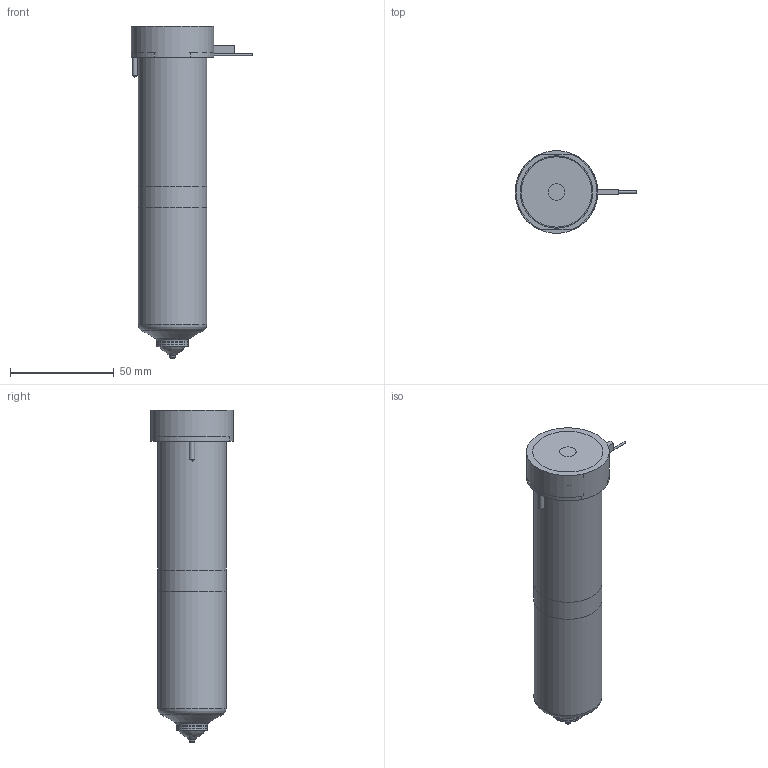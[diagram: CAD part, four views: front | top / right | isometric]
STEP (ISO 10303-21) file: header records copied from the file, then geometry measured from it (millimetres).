
FILE_DESCRIPTION(/* description */ (''),/* implementation_level */ '2;1');
FILE_NAME(/* name */ 'BXTV19145_200C_b',/* time_stamp */ '2007-01-18T10:02:06+13:00',/* author */ (''),/* organization */ (''),/* preprocessor_version */ 'ST-DEVELOPER v9',/* originating_system */ 'UGS - NX 4.0',/* authorisation */ '');
FILE_SCHEMA (('CONFIG_CONTROL_DESIGN'));
Length unit declared in the file: millimetre
Products named in the file (1): BXTV19145_200C_b
Bounding box: 58.85 x 40 x 160.38 mm (x, y, z)
Volume: 245781.2 mm3; surface area: 39165.9 mm2
Topology: 6 solids, 6 shells, 82 faces, 163 edges, 104 vertices
Faces by surface type: plane 36, cylinder 23, cone 13, torus 8, bspline 2
Full cylindrical faces by diameter (mm): 1 x3, 2.5 x2, 3 x1, 8 x1, 14.61 x1, 15.01 x2, 18.3 x1, 28.6 x1, 33 x2, 40 x1
Entity records: 2043 total; most frequent: CARTESIAN_POINT 427, DIRECTION 340, ORIENTED_EDGE 236, AXIS2_PLACEMENT_3D 151, EDGE_LOOP 128, EDGE_CURVE 118, VERTEX_POINT 95, ADVANCED_FACE 82
